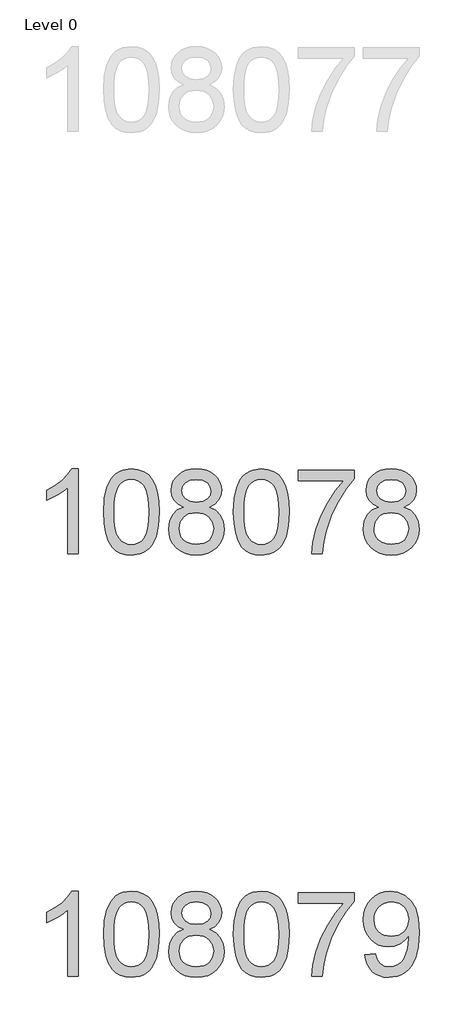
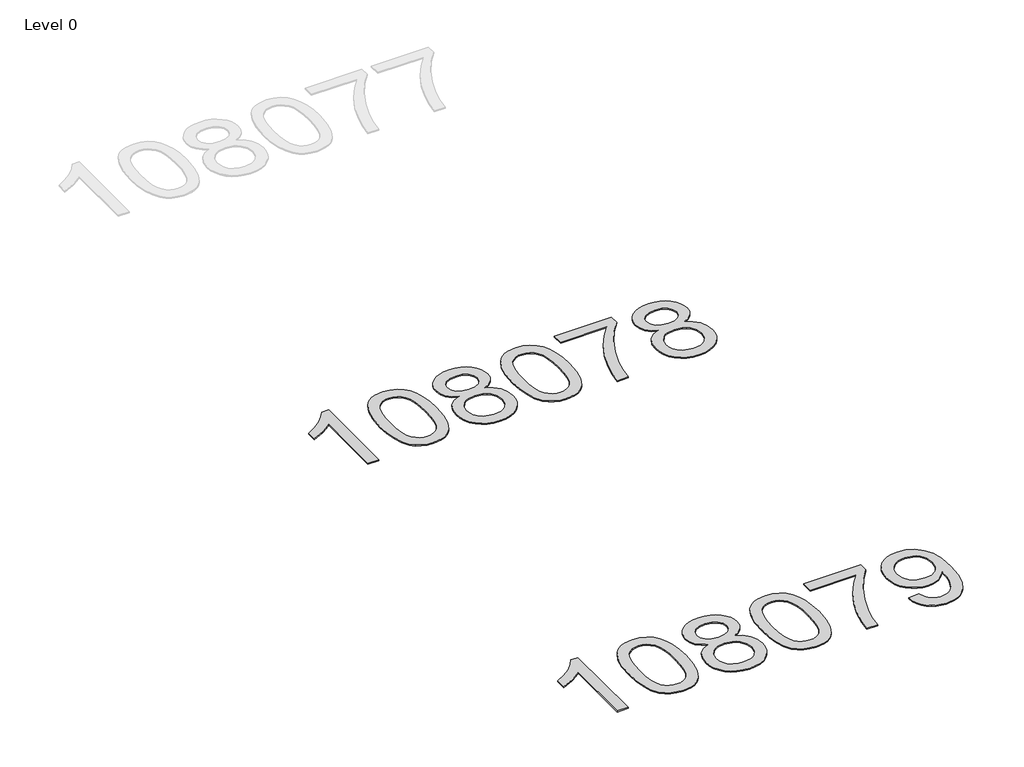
# One storey, part 1 of 8: 2 proxies.
"""IFC4 building model written with IfcOpenShell, lengths in millimetres."""

from ifc_helpers import new_model, si_unit, origin, origin_with_axes, place, context, project, spatial, polyline, outline, extrude, element, save

model = new_model("IFC4")

# Units and contexts
model_context = context("Model", 3, world=origin())
ifc_project = project(units=[si_unit("LENGTHUNIT", "METRE", prefix="MILLI")], contexts=[model_context])

# Site, building, storey
site = spatial("IfcSite", under=ifc_project)
building = spatial("IfcBuilding", under=site)
storey = spatial("IfcBuildingStorey", under=building, Name="Level 0", Elevation=0.0)

# Proxies
placement = place(None, origin())
element("IfcBuildingElementProxy", 1, Name="400mm Arial", ObjectType="400mm Arial", at=placement, inside=storey, context=model_context, shape_type="SweptSolid", body=[
    extrude(outline(polyline([(-3629.592891, -1850.9767982), (-3679.821046, -1850.9767982), (-3679.821046, -1537.8356439), (-3700.7903198, -1554.7950039), (-3727.4004508, -1571.7298384), (-3780.2773562, -1597.0891706), (-3780.2773562, -1549.6078677), (-3740.8281436, -1528.1480847), (-3706.6519062, -1502.6170742), (-3679.7106814, -1475.467383), (-3661.9665065, -1449.1515576), (-3629.592891, -1449.1515576), (-3629.592891, -1850.9767982)])), origin_with_axes(), (0.0, 0.0, 1.0), 5.0),
    extrude(outline(polyline([(-3510.3010227, -1653.3015394), (-3506.60994, -1588.9835039), (-3495.5366919, -1537.6884911), (-3477.1916431, -1498.6316859), (-3465.3335801, -1483.3983056), (-3451.6851581, -1471.0282736), (-3436.2003918, -1461.4572103), (-3418.8332959, -1454.6207366), (-3378.4521156, -1449.1515576), (-3347.5009771, -1452.3889191), (-3319.7872001, -1462.1010038), (-3296.6106344, -1477.9076669), (-3279.2711297, -1499.4287636), (-3266.1745307, -1526.480353), (-3255.726682, -1558.878494), (-3248.8840769, -1600.0199638), (-3246.6032085, -1653.3015394), (-3250.257503, -1717.2516929), (-3261.2203865, -1768.4240785), (-3279.4550707, -1807.5176718), (-3291.2855425, -1822.7970373), (-3304.9247675, -1835.2314488), (-3320.4279279, -1844.8668914), (-3337.8502061, -1851.7493504), (-3378.4521156, -1857.2553176), (-3406.1168416, -1854.8640846), (-3430.642308, -1847.6903857), (-3452.0285146, -1835.7342208), (-3470.2754616, -1818.9955901), (-3487.7866446, -1788.737296), (-3500.2946324, -1751.0355228), (-3507.7994251, -1705.8902706), (-3510.3010227, -1653.3015394)]), holes=[polyline([(-3460.0728676, -1653.2034376), (-3458.6013396, -1696.8679647), (-3454.1867557, -1732.2122274), (-3446.8291158, -1759.2362256), (-3436.5284199, -1777.9399594), (-3424.069483, -1790.6656108), (-3410.23712, -1799.7553617), (-3395.0313308, -1805.2092123), (-3378.4521156, -1807.0271625), (-3361.8729003, -1805.2030809), (-3346.6671112, -1799.7308363), (-3332.8347482, -1790.6104285), (-3320.3758113, -1777.8418575), (-3310.0751154, -1759.1074669), (-3302.7174755, -1732.0896001), (-3298.3028916, -1696.7882569), (-3296.8313636, -1653.2034376), (-3298.2538406, -1610.694673), (-3302.5212718, -1575.9727441), (-3309.633657, -1549.0376506), (-3319.5909964, -1529.8893928), (-3331.8414668, -1516.5414077), (-3345.8332454, -1507.0071327), (-3361.566332, -1501.2865677), (-3379.0407268, -1499.3797127), (-3395.5341029, -1501.0597071), (-3410.4823746, -1506.0996904), (-3423.885542, -1514.4996627), (-3435.743605, -1526.2596238), (-3446.3876574, -1547.1062702), (-3453.9905519, -1575.2124546), (-3458.5522887, -1610.5781771), (-3460.0728676, -1653.2034376)])]), origin_with_axes(), (0.0, 0.0, 1.0), 5.0),
    extrude(outline(polyline([(-3129.4695813, -1629.6589899), (-3156.3617551, -1616.4152381), (-3175.2341015, -1598.4625967), (-3186.3809259, -1576.1689478), (-3190.0965341, -1549.9021733), (-3188.0731831, -1529.4172776), (-3182.0031302, -1510.6369017), (-3171.8863753, -1493.5610458), (-3157.7229185, -1478.1897097), (-3140.1933414, -1465.4855182), (-3119.9782258, -1456.4110956), (-3097.0775716, -1450.9664421), (-3071.4913788, -1449.1515576), (-3045.7825587, -1451.0093617), (-3022.7102263, -1456.5827739), (-3002.2743814, -1465.8717943), (-2984.4750242, -1478.8764228), (-2970.05405, -1494.5481958), (-2959.7533542, -1511.8386496), (-2953.5729366, -1530.7477841), (-2951.5127975, -1551.2755994), (-2955.1793547, -1576.6962453), (-2966.1790263, -1598.6097495), (-2984.6344398, -1616.4520263), (-3010.6682223, -1629.6589899), (-2979.753872, -1645.5882803), (-2957.2517566, -1669.0468888), (-2943.5297582, -1698.9066441), (-2938.9557587, -1734.0393746), (-2941.2243643, -1759.0921385), (-2948.0301812, -1782.0602377), (-2959.3732094, -1802.9436723), (-2975.2534489, -1821.7424423), (-2994.8370338, -1837.2793252), (-3017.2900982, -1848.3770987), (-3042.6126422, -1855.0357629), (-3070.8046658, -1857.2553176), (-3098.9966893, -1855.0265658), (-3124.3192333, -1848.3403105), (-3146.7722978, -1837.1965518), (-3166.3558826, -1821.5952895), (-3182.2361221, -1802.6646952), (-3193.5791503, -1781.5329402), (-3200.3849672, -1758.2000247), (-3202.6535728, -1732.6659485), (-3197.8956324, -1696.1720546), (-3183.621811, -1666.1528838), (-3160.5678726, -1643.6385057), (-3129.4695813, -1629.6589899)]), holes=[polyline([(-3139.868379, -1551.3737013), (-3135.4170068, -1573.2994682), (-3122.0628904, -1590.8106512), (-3100.1984372, -1602.2885694), (-3070.2160546, -1606.1145422), (-3040.9326478, -1602.3130949), (-3019.3992883, -1590.9087531), (-3006.1555365, -1573.9861813), (-3001.7409525, -1553.6300442), (-3006.3026893, -1532.501355), (-3019.9878995, -1515.0269602), (-3041.8155645, -1503.2915245), (-3070.8046658, -1499.3797127), (-3099.977708, -1503.2056854), (-3121.7685848, -1514.6836037), (-3135.3434305, -1531.5080736), (-3139.868379, -1551.3737013)]), polyline([(-3152.4254178, -1730.900115), (-3150.3284904, -1750.1158178), (-3144.0377083, -1768.7183841), (-3132.4249, -1784.94198), (-3114.361894, -1797.0207722), (-3092.7304327, -1804.5255649), (-3070.4122583, -1807.0271625), (-3036.2237582, -1801.76645), (-3022.3300815, -1795.1905593), (-3010.5701204, -1785.9843124), (-2994.5304654, -1762.0842454), (-2989.1839138, -1732.4697448), (-2994.7021437, -1702.3524721), (-3011.2568335, -1677.9251076), (-3023.3356257, -1668.4828031), (-3037.4990825, -1661.7382999), (-3072.07999, -1656.3426973), (-3105.7902435, -1661.6647235), (-3119.5275703, -1668.3172562), (-3131.1863639, -1677.6308021), (-3147.1156543, -1701.5921827), (-3152.4254178, -1730.900115)])]), origin_with_axes(), (0.0, 0.0, 1.0), 5.0),
    extrude(outline(polyline([(-2895.006123, -1653.3015394), (-2891.3150403, -1588.9835039), (-2880.2417923, -1537.6884911), (-2861.8967434, -1498.6316859), (-2850.0386805, -1483.3983056), (-2836.3902584, -1471.0282736), (-2820.9054921, -1461.4572103), (-2803.5383963, -1454.6207366), (-2763.1572159, -1449.1515576), (-2732.2060774, -1452.3889191), (-2704.4923004, -1462.1010038), (-2681.3157347, -1477.9076669), (-2663.97623, -1499.4287636), (-2650.879631, -1526.480353), (-2640.4317823, -1558.878494), (-2633.5891772, -1600.0199638), (-2631.3083089, -1653.3015394), (-2634.9626033, -1717.2516929), (-2645.9254868, -1768.4240785), (-2664.160171, -1807.5176718), (-2675.9906429, -1822.7970373), (-2689.6298678, -1835.2314488), (-2705.1330282, -1844.8668914), (-2722.5553064, -1851.7493504), (-2763.1572159, -1857.2553176), (-2790.821942, -1854.8640846), (-2815.3474083, -1847.6903857), (-2836.733615, -1835.7342208), (-2854.9805619, -1818.9955901), (-2872.4917449, -1788.737296), (-2884.9997327, -1751.0355228), (-2892.5045254, -1705.8902706), (-2895.006123, -1653.3015394)]), holes=[polyline([(-2844.7779679, -1653.2034376), (-2843.3064399, -1696.8679647), (-2838.891856, -1732.2122274), (-2831.5342161, -1759.2362256), (-2821.2335202, -1777.9399594), (-2808.7745833, -1790.6656108), (-2794.9422203, -1799.7553617), (-2779.7364312, -1805.2092123), (-2763.1572159, -1807.0271625), (-2746.5780007, -1805.2030809), (-2731.3722115, -1799.7308363), (-2717.5398485, -1790.6104285), (-2705.0809116, -1777.8418575), (-2694.7802158, -1759.1074669), (-2687.4225759, -1732.0896001), (-2683.0079919, -1696.7882569), (-2681.5364639, -1653.2034376), (-2682.958941, -1610.694673), (-2687.2263721, -1575.9727441), (-2694.3387574, -1549.0376506), (-2704.2960967, -1529.8893928), (-2716.5465671, -1516.5414077), (-2730.5383457, -1507.0071327), (-2746.2714324, -1501.2865677), (-2763.7458271, -1499.3797127), (-2780.2392032, -1501.0597071), (-2795.187475, -1506.0996904), (-2808.5906423, -1514.4996627), (-2820.4487053, -1526.2596238), (-2831.0927577, -1547.1062702), (-2838.6956523, -1575.2124546), (-2843.257389, -1610.5781771), (-2844.7779679, -1653.2034376)])]), origin_with_axes(), (0.0, 0.0, 1.0), 5.0),
    extrude(outline(polyline([(-2587.3586732, -1505.658232), (-2587.3586732, -1455.430077), (-2323.660859, -1455.430077), (-2323.660859, -1496.0442492), (-2361.2461362, -1543.6113912), (-2398.4635314, -1604.1034539), (-2431.2908681, -1672.0022075), (-2455.7059698, -1741.789422), (-2467.6743974, -1794.0041399), (-2474.3453243, -1850.9767982), (-2524.5734793, -1850.9767982), (-2519.1410885, -1799.2035387), (-2504.6097497, -1737.6691437), (-2481.3718704, -1672.4436659), (-2449.8198579, -1609.5971584), (-2412.9826075, -1552.7839156), (-2373.8890141, -1505.658232), (-2587.3586732, -1505.658232)])), origin_with_axes(), (0.0, 0.0, 1.0), 5.0),
    extrude(outline(polyline([(-2206.5272318, -1629.6589899), (-2233.4194056, -1616.4152381), (-2252.291752, -1598.4625967), (-2263.4385764, -1576.1689478), (-2267.1541846, -1549.9021733), (-2265.1308336, -1529.4172776), (-2259.0607807, -1510.6369017), (-2248.9440258, -1493.5610458), (-2234.780569, -1478.1897097), (-2217.2509919, -1465.4855182), (-2197.0358763, -1456.4110956), (-2174.1352221, -1450.9664421), (-2148.5490293, -1449.1515576), (-2122.8402092, -1451.0093617), (-2099.7678768, -1456.5827739), (-2079.3320319, -1465.8717943), (-2061.5326747, -1478.8764228), (-2047.1117005, -1494.5481958), (-2036.8110047, -1511.8386496), (-2030.6305871, -1530.7477841), (-2028.570448, -1551.2755994), (-2032.2370052, -1576.6962453), (-2043.2366768, -1598.6097495), (-2061.6920903, -1616.4520263), (-2087.7258728, -1629.6589899), (-2056.8115225, -1645.5882803), (-2034.3094071, -1669.0468888), (-2020.5874087, -1698.9066441), (-2016.0134092, -1734.0393746), (-2018.2820148, -1759.0921385), (-2025.0878317, -1782.0602377), (-2036.4308599, -1802.9436723), (-2052.3110994, -1821.7424423), (-2071.8946843, -1837.2793252), (-2094.3477487, -1848.3770987), (-2119.6702927, -1855.0357629), (-2147.8623163, -1857.2553176), (-2176.0543398, -1855.0265658), (-2201.3768838, -1848.3403105), (-2223.8299483, -1837.1965518), (-2243.4135331, -1821.5952895), (-2259.2937726, -1802.6646952), (-2270.6368008, -1781.5329402), (-2277.4426177, -1758.2000247), (-2279.7112233, -1732.6659485), (-2274.9532829, -1696.1720546), (-2260.6794615, -1666.1528838), (-2237.6255231, -1643.6385057), (-2206.5272318, -1629.6589899)]), holes=[polyline([(-2216.9260295, -1551.3737013), (-2212.4746574, -1573.2994682), (-2199.1205409, -1590.8106512), (-2177.2560877, -1602.2885694), (-2147.2737051, -1606.1145422), (-2117.9902983, -1602.3130949), (-2096.4569388, -1590.9087531), (-2083.213187, -1573.9861813), (-2078.798603, -1553.6300442), (-2083.3603398, -1532.501355), (-2097.04555, -1515.0269602), (-2118.873215, -1503.2915245), (-2147.8623163, -1499.3797127), (-2177.0353585, -1503.2056854), (-2198.8262353, -1514.6836037), (-2212.401081, -1531.5080736), (-2216.9260295, -1551.3737013)]), polyline([(-2229.4830683, -1730.900115), (-2227.3861409, -1750.1158178), (-2221.0953588, -1768.7183841), (-2209.4825505, -1784.94198), (-2191.4195445, -1797.0207722), (-2169.7880832, -1804.5255649), (-2147.4699088, -1807.0271625), (-2113.2814087, -1801.76645), (-2099.387732, -1795.1905593), (-2087.6277709, -1785.9843124), (-2071.5881159, -1762.0842454), (-2066.2415643, -1732.4697448), (-2071.7597942, -1702.3524721), (-2088.314484, -1677.9251076), (-2100.3932762, -1668.4828031), (-2114.556733, -1661.7382999), (-2149.1376405, -1656.3426973), (-2182.847894, -1661.6647235), (-2196.5852208, -1668.3172562), (-2208.2440144, -1677.6308021), (-2224.1733048, -1701.5921827), (-2229.4830683, -1730.900115)])]), origin_with_axes(), (0.0, 0.0, 1.0), 5.0),
])
element("IfcBuildingElementProxy", 2, Name="400mm Arial", ObjectType="400mm Arial", at=placement, inside=storey, context=model_context, shape_type="SweptSolid", body=[
    extrude(outline(polyline([(-3629.592891, -3850.9767982), (-3679.821046, -3850.9767982), (-3679.821046, -3537.8356439), (-3700.7903198, -3554.7950039), (-3727.4004508, -3571.7298384), (-3780.2773562, -3597.0891706), (-3780.2773562, -3549.6078677), (-3740.8281436, -3528.1480847), (-3706.6519062, -3502.6170742), (-3679.7106814, -3475.467383), (-3661.9665065, -3449.1515576), (-3629.592891, -3449.1515576), (-3629.592891, -3850.9767982)])), origin_with_axes(), (0.0, 0.0, 1.0), 5.0),
    extrude(outline(polyline([(-3510.3010227, -3653.3015394), (-3506.60994, -3588.9835039), (-3495.5366919, -3537.6884911), (-3477.1916431, -3498.6316859), (-3465.3335801, -3483.3983056), (-3451.6851581, -3471.0282736), (-3436.2003918, -3461.4572103), (-3418.8332959, -3454.6207366), (-3378.4521156, -3449.1515576), (-3347.5009771, -3452.3889191), (-3319.7872001, -3462.1010038), (-3296.6106344, -3477.9076669), (-3279.2711297, -3499.4287636), (-3266.1745307, -3526.480353), (-3255.726682, -3558.878494), (-3248.8840769, -3600.0199638), (-3246.6032085, -3653.3015394), (-3250.257503, -3717.2516929), (-3261.2203865, -3768.4240785), (-3279.4550707, -3807.5176718), (-3291.2855425, -3822.7970373), (-3304.9247675, -3835.2314488), (-3320.4279279, -3844.8668914), (-3337.8502061, -3851.7493504), (-3378.4521156, -3857.2553176), (-3406.1168416, -3854.8640846), (-3430.642308, -3847.6903857), (-3452.0285146, -3835.7342208), (-3470.2754616, -3818.9955901), (-3487.7866446, -3788.737296), (-3500.2946324, -3751.0355228), (-3507.7994251, -3705.8902706), (-3510.3010227, -3653.3015394)]), holes=[polyline([(-3460.0728676, -3653.2034376), (-3458.6013396, -3696.8679647), (-3454.1867557, -3732.2122274), (-3446.8291158, -3759.2362256), (-3436.5284199, -3777.9399594), (-3424.069483, -3790.6656108), (-3410.23712, -3799.7553617), (-3395.0313308, -3805.2092123), (-3378.4521156, -3807.0271625), (-3361.8729003, -3805.2030809), (-3346.6671112, -3799.7308363), (-3332.8347482, -3790.6104285), (-3320.3758113, -3777.8418575), (-3310.0751154, -3759.1074669), (-3302.7174755, -3732.0896001), (-3298.3028916, -3696.7882569), (-3296.8313636, -3653.2034376), (-3298.2538406, -3610.694673), (-3302.5212718, -3575.9727441), (-3309.633657, -3549.0376506), (-3319.5909964, -3529.8893928), (-3331.8414668, -3516.5414077), (-3345.8332454, -3507.0071327), (-3361.566332, -3501.2865677), (-3379.0407268, -3499.3797127), (-3395.5341029, -3501.0597071), (-3410.4823746, -3506.0996904), (-3423.885542, -3514.4996627), (-3435.743605, -3526.2596238), (-3446.3876574, -3547.1062702), (-3453.9905519, -3575.2124546), (-3458.5522887, -3610.5781771), (-3460.0728676, -3653.2034376)])]), origin_with_axes(), (0.0, 0.0, 1.0), 5.0),
    extrude(outline(polyline([(-3129.4695813, -3629.6589899), (-3156.3617551, -3616.4152381), (-3175.2341015, -3598.4625967), (-3186.3809259, -3576.1689478), (-3190.0965341, -3549.9021733), (-3188.0731831, -3529.4172776), (-3182.0031302, -3510.6369017), (-3171.8863753, -3493.5610458), (-3157.7229185, -3478.1897097), (-3140.1933414, -3465.4855182), (-3119.9782258, -3456.4110956), (-3097.0775716, -3450.9664421), (-3071.4913788, -3449.1515576), (-3045.7825587, -3451.0093617), (-3022.7102263, -3456.5827739), (-3002.2743814, -3465.8717943), (-2984.4750242, -3478.8764228), (-2970.05405, -3494.5481958), (-2959.7533542, -3511.8386496), (-2953.5729366, -3530.7477841), (-2951.5127975, -3551.2755994), (-2955.1793547, -3576.6962453), (-2966.1790263, -3598.6097495), (-2984.6344398, -3616.4520263), (-3010.6682223, -3629.6589899), (-2979.753872, -3645.5882803), (-2957.2517566, -3669.0468888), (-2943.5297582, -3698.9066441), (-2938.9557587, -3734.0393746), (-2941.2243643, -3759.0921385), (-2948.0301812, -3782.0602377), (-2959.3732094, -3802.9436723), (-2975.2534489, -3821.7424423), (-2994.8370338, -3837.2793252), (-3017.2900982, -3848.3770987), (-3042.6126422, -3855.0357629), (-3070.8046658, -3857.2553176), (-3098.9966893, -3855.0265658), (-3124.3192333, -3848.3403105), (-3146.7722978, -3837.1965518), (-3166.3558826, -3821.5952895), (-3182.2361221, -3802.6646952), (-3193.5791503, -3781.5329402), (-3200.3849672, -3758.2000247), (-3202.6535728, -3732.6659485), (-3197.8956324, -3696.1720546), (-3183.621811, -3666.1528838), (-3160.5678726, -3643.6385057), (-3129.4695813, -3629.6589899)]), holes=[polyline([(-3139.868379, -3551.3737013), (-3135.4170068, -3573.2994682), (-3122.0628904, -3590.8106512), (-3100.1984372, -3602.2885694), (-3070.2160546, -3606.1145422), (-3040.9326478, -3602.3130949), (-3019.3992883, -3590.9087531), (-3006.1555365, -3573.9861813), (-3001.7409525, -3553.6300442), (-3006.3026893, -3532.501355), (-3019.9878995, -3515.0269602), (-3041.8155645, -3503.2915245), (-3070.8046658, -3499.3797127), (-3099.977708, -3503.2056854), (-3121.7685848, -3514.6836037), (-3135.3434305, -3531.5080736), (-3139.868379, -3551.3737013)]), polyline([(-3152.4254178, -3730.900115), (-3150.3284904, -3750.1158178), (-3144.0377083, -3768.7183841), (-3132.4249, -3784.94198), (-3114.361894, -3797.0207722), (-3092.7304327, -3804.5255649), (-3070.4122583, -3807.0271625), (-3036.2237582, -3801.76645), (-3022.3300815, -3795.1905593), (-3010.5701204, -3785.9843124), (-2994.5304654, -3762.0842454), (-2989.1839138, -3732.4697448), (-2994.7021437, -3702.3524721), (-3011.2568335, -3677.9251076), (-3023.3356257, -3668.4828031), (-3037.4990825, -3661.7382999), (-3072.07999, -3656.3426973), (-3105.7902435, -3661.6647235), (-3119.5275703, -3668.3172562), (-3131.1863639, -3677.6308021), (-3147.1156543, -3701.5921827), (-3152.4254178, -3730.900115)])]), origin_with_axes(), (0.0, 0.0, 1.0), 5.0),
    extrude(outline(polyline([(-2895.006123, -3653.3015394), (-2891.3150403, -3588.9835039), (-2880.2417923, -3537.6884911), (-2861.8967434, -3498.6316859), (-2850.0386805, -3483.3983056), (-2836.3902584, -3471.0282736), (-2820.9054921, -3461.4572103), (-2803.5383963, -3454.6207366), (-2763.1572159, -3449.1515576), (-2732.2060774, -3452.3889191), (-2704.4923004, -3462.1010038), (-2681.3157347, -3477.9076669), (-2663.97623, -3499.4287636), (-2650.879631, -3526.480353), (-2640.4317823, -3558.878494), (-2633.5891772, -3600.0199638), (-2631.3083089, -3653.3015394), (-2634.9626033, -3717.2516929), (-2645.9254868, -3768.4240785), (-2664.160171, -3807.5176718), (-2675.9906429, -3822.7970373), (-2689.6298678, -3835.2314488), (-2705.1330282, -3844.8668914), (-2722.5553064, -3851.7493504), (-2763.1572159, -3857.2553176), (-2790.821942, -3854.8640846), (-2815.3474083, -3847.6903857), (-2836.733615, -3835.7342208), (-2854.9805619, -3818.9955901), (-2872.4917449, -3788.737296), (-2884.9997327, -3751.0355228), (-2892.5045254, -3705.8902706), (-2895.006123, -3653.3015394)]), holes=[polyline([(-2844.7779679, -3653.2034376), (-2843.3064399, -3696.8679647), (-2838.891856, -3732.2122274), (-2831.5342161, -3759.2362256), (-2821.2335202, -3777.9399594), (-2808.7745833, -3790.6656108), (-2794.9422203, -3799.7553617), (-2779.7364312, -3805.2092123), (-2763.1572159, -3807.0271625), (-2746.5780007, -3805.2030809), (-2731.3722115, -3799.7308363), (-2717.5398485, -3790.6104285), (-2705.0809116, -3777.8418575), (-2694.7802158, -3759.1074669), (-2687.4225759, -3732.0896001), (-2683.0079919, -3696.7882569), (-2681.5364639, -3653.2034376), (-2682.958941, -3610.694673), (-2687.2263721, -3575.9727441), (-2694.3387574, -3549.0376506), (-2704.2960967, -3529.8893928), (-2716.5465671, -3516.5414077), (-2730.5383457, -3507.0071327), (-2746.2714324, -3501.2865677), (-2763.7458271, -3499.3797127), (-2780.2392032, -3501.0597071), (-2795.187475, -3506.0996904), (-2808.5906423, -3514.4996627), (-2820.4487053, -3526.2596238), (-2831.0927577, -3547.1062702), (-2838.6956523, -3575.2124546), (-2843.257389, -3610.5781771), (-2844.7779679, -3653.2034376)])]), origin_with_axes(), (0.0, 0.0, 1.0), 5.0),
    extrude(outline(polyline([(-2587.3586732, -3505.658232), (-2587.3586732, -3455.430077), (-2323.660859, -3455.430077), (-2323.660859, -3496.0442492), (-2361.2461362, -3543.6113912), (-2398.4635314, -3604.1034539), (-2431.2908681, -3672.0022075), (-2455.7059698, -3741.789422), (-2467.6743974, -3794.0041399), (-2474.3453243, -3850.9767982), (-2524.5734793, -3850.9767982), (-2519.1410885, -3799.2035387), (-2504.6097497, -3737.6691437), (-2481.3718704, -3672.4436659), (-2449.8198579, -3609.5971584), (-2412.9826075, -3552.7839156), (-2373.8890141, -3505.658232), (-2587.3586732, -3505.658232)])), origin_with_axes(), (0.0, 0.0, 1.0), 5.0),
    extrude(outline(polyline([(-2273.432704, -3750.520488), (-2223.2045489, -3744.2419686), (-2214.6206357, -3772.7528233), (-2200.6411198, -3792.1647299), (-2181.609358, -3803.3115543), (-2157.8687065, -3807.0271625), (-2136.568339, -3804.6359295), (-2117.2054833, -3797.4622306), (-2101.1167774, -3786.2908807), (-2089.6388592, -3771.9066947), (-2073.2067967, -3728.2513646), (-2067.7621432, -3699.8508746), (-2065.9472587, -3669.9788566), (-2066.2415643, -3660.16867), (-2083.6423826, -3681.4077239), (-2106.4142781, -3698.2321938), (-2132.9140445, -3709.1950772), (-2161.4984756, -3712.8493717), (-2185.3586886, -3710.6175543), (-2207.299784, -3703.922102), (-2227.3217615, -3692.7630148), (-2245.4246214, -3677.1402927), (-2260.4250097, -3657.8694075), (-2271.1395728, -3635.765831), (-2277.5683107, -3610.8295631), (-2279.7112233, -3583.0606038), (-2277.4640775, -3554.3658082), (-2270.7226399, -3528.6140685), (-2259.4869107, -3505.8053848), (-2243.7568897, -3485.9397571), (-2224.6423543, -3469.8449198), (-2203.253082, -3458.3486075), (-2179.5890727, -3451.45082), (-2153.6503263, -3449.1515576), (-2116.1876765, -3454.4000074), (-2082.0850155, -3470.1453568), (-2053.5618982, -3495.6027908), (-2032.8378791, -3529.9874947), (-2020.2195267, -3577.5178484), (-2016.0134092, -3642.4122324), (-2020.2072639, -3711.2184282), (-2032.7888282, -3764.401902), (-2053.6477373, -3804.3661494), (-2067.1398095, -3820.2923741), (-2082.6736267, -3833.5146661), (-2099.9364893, -3843.9012011), (-2118.6156976, -3851.3201547), (-2160.2231513, -3857.2553176), (-2182.780449, -3855.5048124), (-2203.1672429, -3850.2532969), (-2221.383533, -3841.5007711), (-2237.4293194, -3829.247235), (-2250.8999317, -3813.8237823), (-2261.3907, -3795.561507), (-2268.901624, -3774.4604089), (-2273.432704, -3750.520488)]), holes=[polyline([(-2066.2415643, -3581.8833814), (-2071.6616923, -3547.8420342), (-2078.4368524, -3533.7644165), (-2087.9220765, -3521.6488361), (-2099.6513808, -3511.9060946), (-2113.1587814, -3504.9469935), (-2145.5078715, -3499.3797127), (-2163.1171563, -3500.8788318), (-2179.0587095, -3505.3761892), (-2193.3325309, -3512.8717848), (-2205.9386206, -3523.3656187), (-2216.2393164, -3536.2445543), (-2223.5969563, -3550.8954547), (-2228.0115403, -3567.3183201), (-2229.4830683, -3585.5131505), (-2223.9157874, -3616.5501281), (-2216.9566863, -3629.6681869), (-2207.2139448, -3641.1859591), (-2195.0922331, -3650.5638843), (-2180.9962213, -3657.2624023), (-2146.8812976, -3662.6212166), (-2114.7897249, -3657.2624023), (-2088.9521461, -3641.1859591), (-2079.0162666, -3629.4413264), (-2071.9192097, -3615.6426859), (-2066.2415643, -3581.8833814)])]), origin_with_axes(), (0.0, 0.0, 1.0), 5.0),
])

save(model, "model.ifc")
